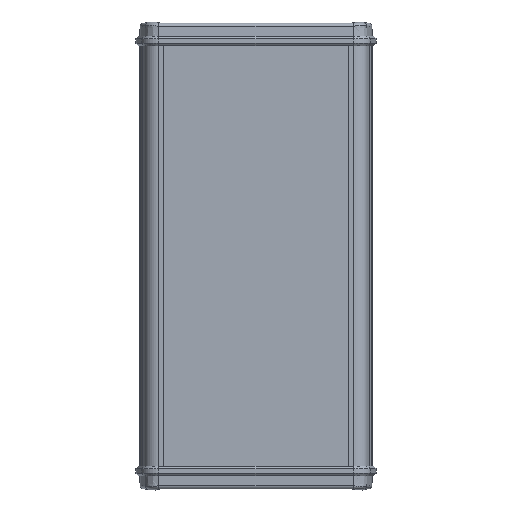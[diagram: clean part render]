
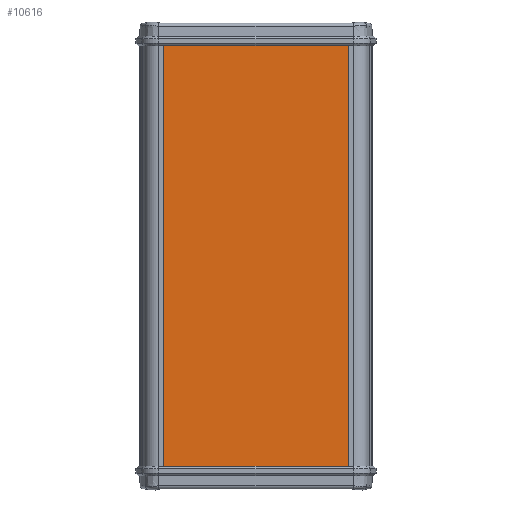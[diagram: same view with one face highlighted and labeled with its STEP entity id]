
A CAD part, front view. The second image highlights one B-rep face of the part: STEP entity #10616.
In plain terms, the highlighted planar face has unit normal (0, -1, 0).
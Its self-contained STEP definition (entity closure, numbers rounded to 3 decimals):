
#1145=FACE_OUTER_BOUND('',#1750,.T.);
#1750=EDGE_LOOP('',(#7309,#7310,#7311,#7312));
#2469=LINE('',#16177,#3473);
#2471=LINE('',#16181,#3475);
#2472=LINE('',#16183,#3476);
#2473=LINE('',#16184,#3477);
#3473=VECTOR('',#12791,150.);
#3475=VECTOR('',#12795,65.);
#3476=VECTOR('',#12796,150.);
#3477=VECTOR('',#12797,65.);
#4483=VERTEX_POINT('',#16174);
#4484=VERTEX_POINT('',#16176);
#4485=VERTEX_POINT('',#16180);
#4486=VERTEX_POINT('',#16182);
#5617=EDGE_CURVE('',#4484,#4483,#2469,.T.);
#5619=EDGE_CURVE('',#4483,#4485,#2471,.T.);
#5620=EDGE_CURVE('',#4486,#4485,#2472,.T.);
#5621=EDGE_CURVE('',#4486,#4484,#2473,.T.);
#7309=ORIENTED_EDGE('',*,*,#5619,.T.);
#7310=ORIENTED_EDGE('',*,*,#5620,.F.);
#7311=ORIENTED_EDGE('',*,*,#5621,.T.);
#7312=ORIENTED_EDGE('',*,*,#5617,.T.);
#10287=PLANE('',#11306);
#10616=ADVANCED_FACE('',(#1145),#10287,.T.);
#11306=AXIS2_PLACEMENT_3D('',#16179,#12793,#12794);
#12791=DIRECTION('',(0.,0.,1.));
#12793=DIRECTION('center_axis',(0.,-1.,0.));
#12794=DIRECTION('ref_axis',(0.,0.,-1.));
#12795=DIRECTION('',(-1.,0.,0.));
#12796=DIRECTION('',(0.,0.,1.));
#12797=DIRECTION('',(1.,0.,0.));
#16174=CARTESIAN_POINT('',(32.5,-11.725,50.));
#16176=CARTESIAN_POINT('',(32.5,-11.725,-100.));
#16177=CARTESIAN_POINT('',(32.5,-11.725,-100.));
#16179=CARTESIAN_POINT('Origin',(32.5,-11.725,-100.));
#16180=CARTESIAN_POINT('',(-32.5,-11.725,50.));
#16181=CARTESIAN_POINT('',(32.5,-11.725,50.));
#16182=CARTESIAN_POINT('',(-32.5,-11.725,-100.));
#16183=CARTESIAN_POINT('',(-32.5,-11.725,-100.));
#16184=CARTESIAN_POINT('',(-32.5,-11.725,-100.));
